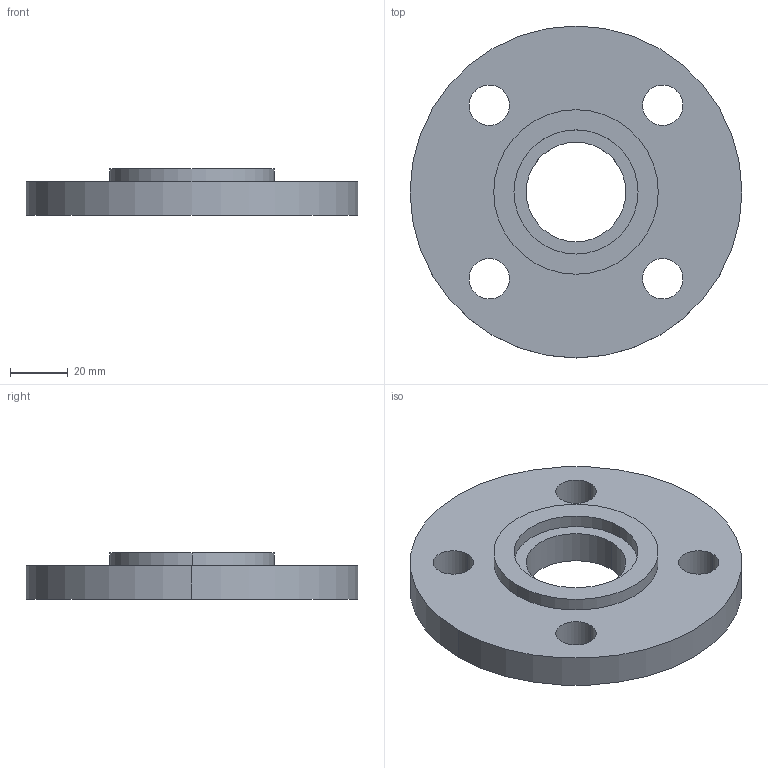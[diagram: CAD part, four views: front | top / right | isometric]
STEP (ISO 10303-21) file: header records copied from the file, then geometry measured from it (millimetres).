
FILE_DESCRIPTION (( 'STEP AP214' ), '1' );
FILE_NAME ('PN40 DN25 Type 01 - Type C Face.STEP', '2018-12-29T20:39:25', ( '' ), ( '' ), 'SwSTEP 2.0', 'SolidWorks 2019', '' );
FILE_SCHEMA (( 'AUTOMOTIVE_DESIGN' ));
Length unit declared in the file: millimetre
Products named in the file (1): PN40 DN25 Type 01 - Type C Face
Bounding box: 115 x 115 x 16 mm (x, y, z)
Volume: 106565.7 mm3; surface area: 26510.7 mm2
Topology: 1 solids, 1 shells, 20 faces, 48 edges, 32 vertices
Faces by surface type: cylinder 16, plane 4
Entity records: 658 total; most frequent: DIRECTION 122, CARTESIAN_POINT 101, ORIENTED_EDGE 96, AXIS2_PLACEMENT_3D 53, EDGE_CURVE 48, CIRCLE 32, EDGE_LOOP 32, VERTEX_POINT 32
